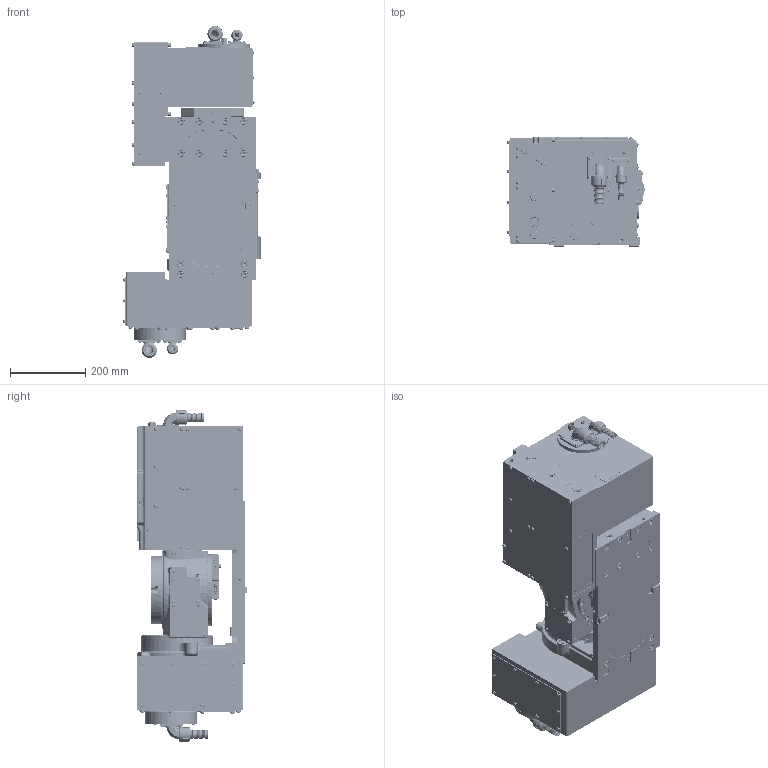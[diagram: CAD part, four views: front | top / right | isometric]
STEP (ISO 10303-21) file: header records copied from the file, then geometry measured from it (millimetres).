
FILE_DESCRIPTION (( 'STEP AP214' ), '1' );
FILE_NAME ('DHP-TW182BFR.STEP', '2025-04-04T06:14:06', ( '' ), ( '' ), 'SwSTEP 2.0', 'SolidWorks 2022', '' );
FILE_SCHEMA (( 'AUTOMOTIVE_DESIGN' ));
Length unit declared in the file: millimetre
Products named in the file (85): 61E457754; 073CAA0013; 61E456235; 0030105020; 61E863695; 0158010005; 0263108500_平面内圧用; 017ACA0001_穴取付時; DHP-TW182BFR; 61E866344; 0030106025; 0150010400; 0263000700_円筒用; 040AZA0003; 0285003010; 61E475112; 61E864132; 61E865970; 0263001000_平面内圧用; 61E475111; 61E388424; 61E250387; 61E495305; 008CUA0011; 61E270911; 61E865976; 61E863696; 61E864130; 61E381347; 61E866343_ｼﾘﾝﾀﾞ取付用; 008CZA0039; 0263201600_平面内圧用; 040AZA0001; 0263002100_平面内圧用; 61E283102; 008CZA0038; 008CUA0048; 61E381410; 61E450780; 026ABA0117_平面内圧用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
Assembly tree (333 placements, depth 4):
  DHP-TW182BFR
    008CZA0035  x59
    0158000005  x59
    0030106016  x6
    61E270911
    61E283102
    61E457754
    61E457755
    61E475107
    61E475111
    61E475112
    61E484436
      61E486542
      017ACA0001_穴取付時  x4
    61E495305
      61E450780
      0158000005  x3
      008CZA0038  x3
      0263213000_平面内圧用
      073CAA0015
      073BQA0002
      073BQA0007
      073CAA0013
      0158010014
      0441125220_直接取付
      008CZA0021  x8
      0150010400  x8
    61E496143
      073CAA0015
      073BQA0002
      073BQA0007
      073CAA0013
      0158000005  x3
      008CZA0039  x3
      026ABA0117_平面内圧用
      0150010400  x8
      008CZA0021  x8
      61E456559
    61E822212
    61E454420
      0030106010  x3
      0030110045  x12
      008CUA0048
      040AZA0003
      0263002100_平面内圧用
      61E250387
      61E454377
      61M419778  x2
    61E866343_ｼﾘﾝﾀﾞ取付用
      61E865976
      61E865974
      61E865973
      61E865972
      61E865970
      61E865971
      61E865969
      61E866344
      61E865975
    61E388424
      0030105020  x4
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Bounding box: 364.74 x 290 x 882.1 mm (x, y, z)
Volume: 25726776.6 mm3; surface area: 4255306.2 mm2
Topology: 448 solids, 450 shells, 15902 faces, 39481 edges, 24737 vertices
Faces by surface type: plane 5420, cylinder 4494, cone 3807, torus 1458, bspline 519, sphere 204
Entity records: 406242 total; most frequent: CARTESIAN_POINT 107328, DIRECTION 53917, ORIENTED_EDGE 53134, EDGE_CURVE 26567, AXIS2_PLACEMENT_3D 21170, VERTEX_POINT 17150, EDGE_LOOP 12523, VECTOR 11577
